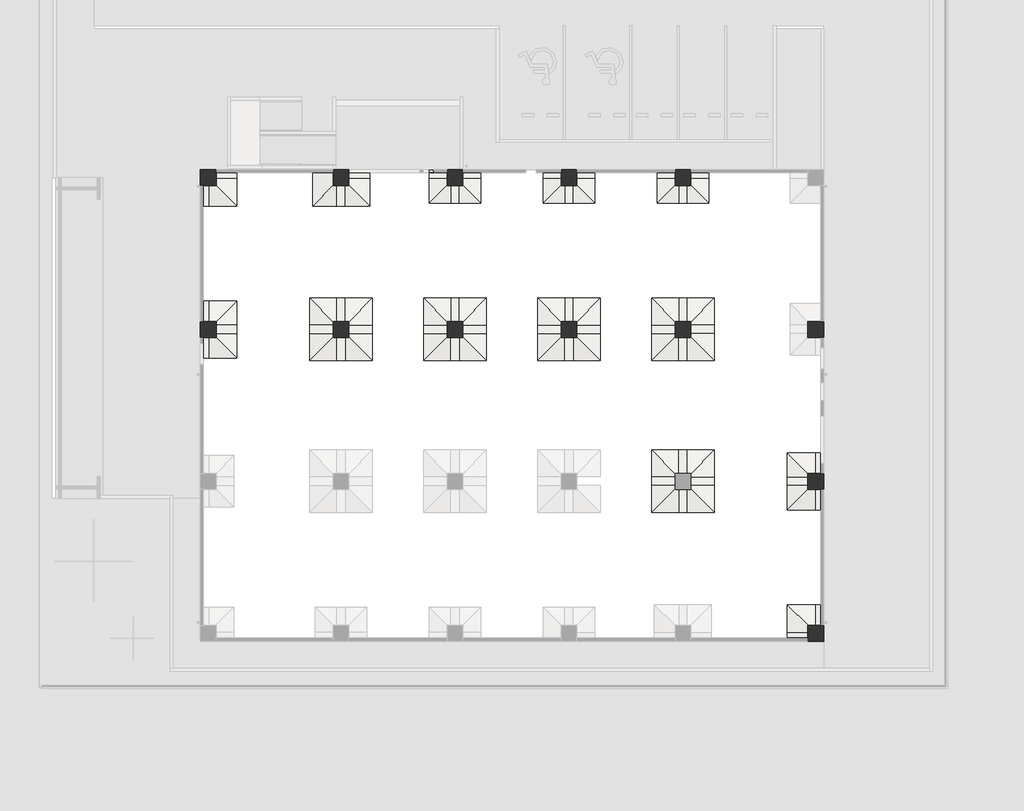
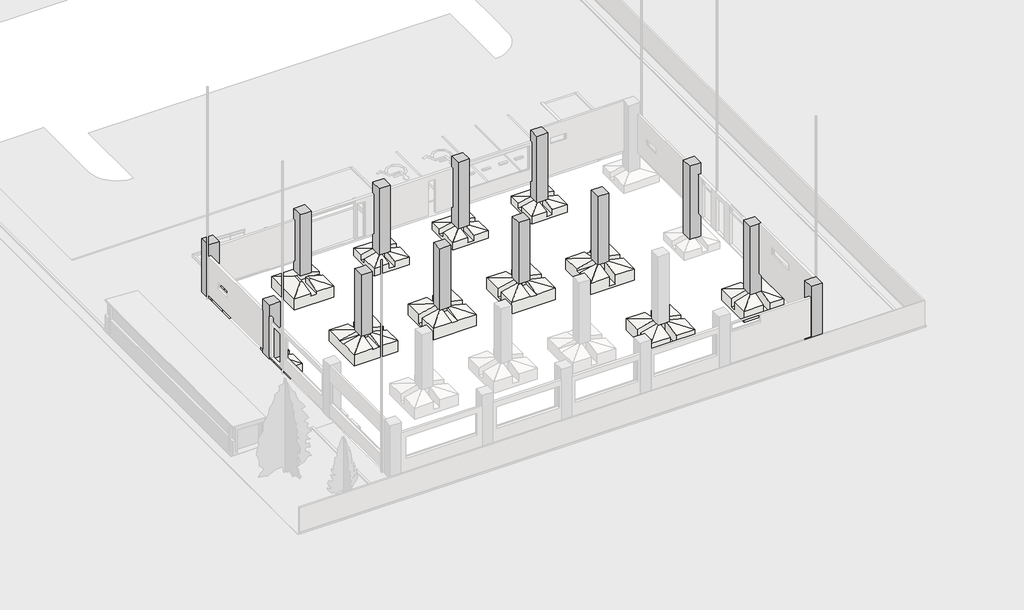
# One storey, part 3 of 4: 13 columns, 13 slabs.
"""IFC4 building model written with IfcOpenShell, lengths in millimetres."""

from ifc_helpers import new_model, si_unit, origin, place, context, project, spatial, faceted_brep, element, save

model = new_model("IFC4")

# Units and contexts
model_context = context("Model", 3, world=origin())
ifc_project = project(units=[si_unit("LENGTHUNIT", "METRE", prefix="MILLI")], contexts=[model_context])

# Site, building, storey
site = spatial("IfcSite", under=ifc_project)
building = spatial("IfcBuilding", under=site)
storey = spatial("IfcBuildingStorey", under=building, Name="設計GL=平均地盤面", Elevation=-300.0)

# Columns
placement = place(None, origin())
element("IfcColumn", 1, ObjectType="営_RC柱_角 : 800*800", at=placement, inside=storey, context=model_context, shape_type="Brep", body=[
    faceted_brep([(32420.0, 420.0, -1500.0), (32420.0, -420.0, -1500.0), (31580.0, -420.0, -1500.0), (31580.0, 420.0, -1500.0), (32420.0, 420.0, 4000.0), (32420.0, -420.0, 4000.0), (32420.0, 420.0, -10.0), (31580.0, -420.0, 4000.0), (31580.0, -420.0, 3150.0), (31580.0, -420.0, -10.0), (31580.0, 420.0, 4000.0), (31580.0, 420.0, 3940.0), (31580.0, 420.0, 0.0), (31580.0, 420.0, -10.0), (31580.0, 420.0, -160.0), (32250.0, 420.0, 4000.0)], [[[0, 1, 2, 3]], [[4, 5, 1, 0, 6]], [[5, 7, 8, 9, 2, 1]], [[7, 10, 11, 12, 13, 14, 3, 2, 9, 8]], [[10, 15, 4, 6, 0, 3, 14, 13, 12, 11]], [[4, 15, 10, 7, 5]]]),
])
element("IfcColumn", 2, ObjectType="営_RC柱_角 : 800*800", at=placement, inside=storey, context=model_context, shape_type="Brep", body=[
    faceted_brep([(32420.0, 8420.0, -1500.0), (32420.0, 7580.0, -1500.0), (31580.0, 7580.0, -1500.0), (31580.0, 8420.0, -1500.0), (32420.0, 8420.0, 4000.0), (32420.0, 7580.0, 4000.0), (32420.0, 7580.0, -10.0), (32420.0, 8420.0, -10.0), (32420.0, 8420.0, 3100.0), (32250.0, 7580.0, 4000.0), (31580.0, 7580.0, 4000.0), (31580.0, 7580.0, 3940.0), (31580.0, 7580.0, 0.0), (31580.0, 7580.0, -10.0), (31580.0, 7580.0, -160.0), (31580.0, 8420.0, 4000.0), (31580.0, 8420.0, 3940.0), (31580.0, 8420.0, 0.0), (31580.0, 8420.0, -10.0), (31580.0, 8420.0, -160.0), (32325.0, 8420.0, 4000.0)], [[[0, 1, 2, 3]], [[4, 5, 6, 1, 0, 7, 8]], [[5, 9, 10, 11, 12, 13, 14, 2, 1, 6]], [[10, 15, 16, 17, 18, 19, 3, 2, 14, 13, 12, 11]], [[15, 20, 4, 8, 7, 0, 3, 19, 18, 17, 16]], [[4, 20, 15, 10, 9, 5]]]),
])
element("IfcColumn", 3, ObjectType="営_RC柱_角 : 800*800", at=placement, inside=storey, context=model_context, shape_type="Brep", body=[
    faceted_brep([(7420.0, 16420.0, -950.0), (7420.0, 15580.0, -950.0), (6580.0, 15580.0, -950.0), (6580.0, 16420.0, -950.0), (7420.0, 16420.0, 4000.0), (7420.0, 15640.0, 4000.0), (7420.0, 15580.0, 4000.0), (7420.0, 15580.0, 3940.0), (7420.0, 15580.0, 0.0), (7420.0, 15580.0, -10.0), (7420.0, 15580.0, -160.0), (7420.0, 16420.0, -160.0), (7420.0, 16420.0, -10.0), (7420.0, 16420.0, 0.0), (7420.0, 16420.0, 3850.0), (6580.0, 15580.0, 4000.0), (6580.0, 15580.0, 3940.0), (6580.0, 15580.0, 0.0), (6580.0, 15580.0, -10.0), (6580.0, 15580.0, -160.0), (6580.0, 16420.0, 4000.0), (6580.0, 16420.0, 3940.0), (6580.0, 16420.0, 0.0), (6580.0, 16420.0, -10.0), (6580.0, 16420.0, -160.0), (7000.0, 16420.0, 4000.0)], [[[0, 1, 2, 3]], [[4, 5, 6, 7, 8, 9, 10, 1, 0, 11, 12, 13, 14]], [[6, 15, 16, 17, 18, 19, 2, 1, 10, 9, 8, 7]], [[15, 20, 21, 22, 23, 24, 3, 2, 19, 18, 17, 16]], [[20, 25, 4, 14, 13, 12, 11, 0, 3, 24, 23, 22, 21]], [[4, 25, 20, 15, 6, 5]]]),
])
element("IfcColumn", 4, ObjectType="営_RC柱_角 : 800*800", at=placement, inside=storey, context=model_context, shape_type="Brep", body=[
    faceted_brep([(13420.0, 16420.0, -950.0), (13420.0, 15580.0, -950.0), (12580.0, 15580.0, -950.0), (12580.0, 16420.0, -950.0), (13420.0, 16420.0, 4000.0), (13420.0, 15580.0, 4000.0), (13420.0, 15580.0, 3940.0), (13420.0, 15580.0, 3850.0), (13420.0, 15580.0, 0.0), (13420.0, 15580.0, -10.0), (13420.0, 15580.0, -160.0), (13420.0, 16420.0, -160.0), (13420.0, 16420.0, -10.0), (13420.0, 16420.0, 0.0), (13420.0, 16420.0, 3940.0), (12580.0, 15580.0, 4000.0), (12580.0, 15580.0, 3940.0), (12580.0, 15580.0, 0.0), (12580.0, 15580.0, -10.0), (12580.0, 15580.0, -160.0), (12580.0, 16420.0, 4000.0), (12580.0, 16420.0, 3940.0), (12580.0, 16420.0, 3850.0), (12580.0, 16420.0, 0.0), (12580.0, 16420.0, -10.0), (12580.0, 16420.0, -160.0)], [[[0, 1, 2, 3]], [[4, 5, 6, 7, 8, 9, 10, 1, 0, 11, 12, 13, 14]], [[5, 15, 16, 17, 18, 19, 2, 1, 10, 9, 8, 7, 6]], [[15, 20, 21, 22, 23, 24, 25, 3, 2, 19, 18, 17, 16]], [[20, 4, 14, 13, 12, 11, 0, 3, 25, 24, 23, 22, 21]], [[4, 20, 15, 5]]]),
])
element("IfcColumn", 5, ObjectType="営_RC柱_角 : 800*800", at=placement, inside=storey, context=model_context, shape_type="Brep", body=[
    faceted_brep([(19420.0, 16420.0, -950.0), (19420.0, 15580.0, -950.0), (18580.0, 15580.0, -950.0), (18580.0, 16420.0, -950.0), (19420.0, 16420.0, 4000.0), (19420.0, 15580.0, 4000.0), (19420.0, 15580.0, 3940.0), (19420.0, 15580.0, 0.0), (19420.0, 15580.0, -10.0), (19420.0, 15580.0, -160.0), (19420.0, 16420.0, -250.0), (19420.0, 16420.0, -100.0), (19420.0, 16420.0, -10.0), (19420.0, 16420.0, 0.0), (19420.0, 16420.0, 3940.0), (18580.0, 15580.0, 4000.0), (18580.0, 15580.0, 3940.0), (18580.0, 15580.0, 0.0), (18580.0, 15580.0, -10.0), (18580.0, 15580.0, -160.0), (18580.0, 16420.0, 4000.0), (18580.0, 16420.0, 3940.0), (18580.0, 16420.0, 0.0), (18580.0, 16420.0, -10.0), (18580.0, 16420.0, -160.0)], [[[0, 1, 2, 3]], [[4, 5, 6, 7, 8, 9, 1, 0, 10, 11, 12, 13, 14]], [[5, 15, 16, 17, 18, 19, 2, 1, 9, 8, 7, 6]], [[15, 20, 21, 22, 23, 24, 3, 2, 19, 18, 17, 16]], [[20, 4, 14, 13, 12, 11, 10, 0, 3, 24, 23, 22, 21]], [[4, 20, 15, 5]]]),
])
element("IfcColumn", 6, ObjectType="営_RC柱_角 : 800*800", at=placement, inside=storey, context=model_context, shape_type="Brep", body=[
    faceted_brep([(25420.0, 16420.0, -1500.0), (25420.0, 15580.0, -1500.0), (24580.0, 15580.0, -1500.0), (24580.0, 16420.0, -1500.0), (25420.0, 16420.0, 4000.0), (25420.0, 15580.0, 4000.0), (25420.0, 15580.0, 3940.0), (25420.0, 15580.0, 0.0), (25420.0, 15580.0, -10.0), (25420.0, 15580.0, -160.0), (25420.0, 16420.0, -160.0), (25420.0, 16420.0, -10.0), (25420.0, 16420.0, 0.0), (25420.0, 16420.0, 3940.0), (24580.0, 15580.0, 4000.0), (24580.0, 15580.0, 3940.0), (24580.0, 15580.0, 0.0), (24580.0, 15580.0, -10.0), (24580.0, 15580.0, -160.0), (24580.0, 16420.0, 4000.0), (24580.0, 16420.0, 3940.0), (24580.0, 16420.0, 0.0), (24580.0, 16420.0, -10.0), (24580.0, 16420.0, -100.0), (24580.0, 16420.0, -250.0)], [[[0, 1, 2, 3]], [[4, 5, 6, 7, 8, 9, 1, 0, 10, 11, 12, 13]], [[5, 14, 15, 16, 17, 18, 2, 1, 9, 8, 7, 6]], [[14, 19, 20, 21, 22, 23, 24, 3, 2, 18, 17, 16, 15]], [[19, 4, 13, 12, 11, 10, 0, 3, 24, 23, 22, 21, 20]], [[4, 19, 14, 5]]]),
])
element("IfcColumn", 7, ObjectType="営_RC柱_角 : 800*800", at=placement, inside=storey, context=model_context, shape_type="Brep", body=[
    faceted_brep([(32420.0, 16420.0, -1900.0), (32420.0, 15580.0, -1900.0), (31580.0, 15580.0, -1900.0), (31580.0, 16420.0, -1900.0), (32420.0, 16420.0, 4000.0), (32420.0, 15580.0, 4000.0), (32420.0, 15580.0, 3100.0), (32420.0, 15580.0, -10.0), (32420.0, 16420.0, -10.0), (32420.0, 16420.0, 3100.0), (32325.0, 15580.0, 4000.0), (31580.0, 15580.0, 4000.0), (31580.0, 15580.0, 3940.0), (31580.0, 15580.0, 3850.0), (31580.0, 15580.0, 0.0), (31580.0, 15580.0, -10.0), (31580.0, 15580.0, -160.0), (31580.0, 16420.0, 4000.0), (31580.0, 16420.0, 3940.0), (31580.0, 16420.0, 0.0), (31580.0, 16420.0, -10.0), (31580.0, 16420.0, -160.0), (32325.0, 16420.0, 4000.0)], [[[0, 1, 2, 3]], [[4, 5, 6, 7, 1, 0, 8, 9]], [[5, 10, 11, 12, 13, 14, 15, 16, 2, 1, 7, 6]], [[11, 17, 18, 19, 20, 21, 3, 2, 16, 15, 14, 13, 12]], [[17, 22, 4, 9, 8, 0, 3, 21, 20, 19, 18]], [[4, 22, 17, 11, 10, 5]]]),
])
element("IfcColumn", 8, ObjectType="営_RC柱_角 : 800*800", at=placement, inside=storey, context=model_context, shape_type="Brep", body=[
    faceted_brep([(420.0, 16420.0, -400.0), (420.0, 15580.0, -400.0), (-420.0, 15580.0, -400.0), (-420.0, 16420.0, -400.0), (420.0, 16420.0, 4000.0), (420.0, 15580.0, 4000.0), (420.0, 15580.0, 3940.0), (420.0, 15580.0, 0.0), (420.0, 15580.0, -10.0), (420.0, 15580.0, -160.0), (420.0, 16420.0, -160.0), (420.0, 16420.0, -10.0), (420.0, 16420.0, 0.0), (420.0, 16420.0, 3940.0), (-325.0, 15580.0, 4000.0), (-420.0, 15580.0, 4000.0), (-420.0, 15580.0, 3100.0), (-420.0, 15580.0, -100.0), (-420.0, 16420.0, 4000.0), (-420.0, 16420.0, 3100.0), (-420.0, 16420.0, -10.0), (-325.0, 16420.0, 4000.0)], [[[0, 1, 2, 3]], [[4, 5, 6, 7, 8, 9, 1, 0, 10, 11, 12, 13]], [[5, 14, 15, 16, 17, 2, 1, 9, 8, 7, 6]], [[15, 18, 19, 20, 3, 2, 17, 16]], [[18, 21, 4, 13, 12, 11, 10, 0, 3, 20, 19]], [[4, 21, 18, 15, 14, 5]]]),
])
element("IfcColumn", 9, ObjectType="営_RC柱_角 : 800*800", at=placement, inside=storey, context=model_context, shape_type="Brep", body=[
    faceted_brep([(7420.0, 24420.0, -950.0), (7420.0, 23580.0, -950.0), (6580.0, 23580.0, -950.0), (6580.0, 24420.0, -950.0), (7420.0, 24420.0, 4000.0), (7420.0, 24335.0, 4000.0), (7420.0, 24250.0, 4000.0), (7420.0, 23580.0, 4000.0), (7420.0, 23580.0, 3850.0), (7420.0, 23580.0, 0.0), (7420.0, 23580.0, -10.0), (7420.0, 23580.0, -160.0), (7420.0, 24420.0, -10.0), (7420.0, 24420.0, 0.0), (7420.0, 24420.0, 3050.0), (7420.0, 24420.0, 3150.0), (7000.0, 23580.0, 4000.0), (6580.0, 23580.0, 4000.0), (6580.0, 23580.0, 0.0), (6580.0, 23580.0, -10.0), (6580.0, 24050.0, 4000.0), (6580.0, 24420.0, 4000.0), (6580.0, 24420.0, 3150.0), (6580.0, 24420.0, -300.0)], [[[0, 1, 2, 3]], [[4, 5, 6, 7, 8, 9, 10, 11, 1, 0, 12, 13, 14, 15]], [[7, 16, 17, 18, 19, 2, 1, 11, 10, 9, 8]], [[17, 20, 21, 22, 23, 3, 2, 19, 18]], [[21, 4, 15, 14, 13, 12, 0, 3, 23, 22]], [[4, 21, 20, 17, 16, 7, 6, 5]]]),
])
element("IfcColumn", 10, ObjectType="営_RC柱_角 : 800*800", at=placement, inside=storey, context=model_context, shape_type="Brep", body=[
    faceted_brep([(13420.0, 24420.0, -1350.0), (13420.0, 23580.0, -1350.0), (12580.0, 23580.0, -1350.0), (12580.0, 24420.0, -1350.0), (13420.0, 24420.0, 4000.0), (13420.0, 24335.0, 4000.0), (13420.0, 23580.0, 4000.0), (13420.0, 23580.0, 3940.0), (13420.0, 23580.0, 0.0), (13420.0, 23580.0, -10.0), (13420.0, 23580.0, -160.0), (13420.0, 24420.0, -10.0), (13420.0, 24420.0, 3150.0), (12580.0, 23580.0, 4000.0), (12580.0, 23580.0, 3940.0), (12580.0, 23580.0, 0.0), (12580.0, 23580.0, -10.0), (12580.0, 23580.0, -160.0), (12580.0, 24335.0, 4000.0), (12580.0, 24420.0, 4000.0), (12580.0, 24420.0, 3150.0), (12580.0, 24420.0, -10.0)], [[[0, 1, 2, 3]], [[4, 5, 6, 7, 8, 9, 10, 1, 0, 11, 12]], [[6, 13, 14, 15, 16, 17, 2, 1, 10, 9, 8, 7]], [[13, 18, 19, 20, 21, 3, 2, 17, 16, 15, 14]], [[19, 4, 12, 11, 0, 3, 21, 20]], [[4, 19, 18, 13, 6, 5]]]),
])
element("IfcColumn", 11, ObjectType="営_RC柱_角 : 800*800", at=placement, inside=storey, context=model_context, shape_type="Brep", body=[
    faceted_brep([(19420.0, 24420.0, -1350.0), (19420.0, 23580.0, -1350.0), (18580.0, 23580.0, -1350.0), (18580.0, 24420.0, -1350.0), (19420.0, 24420.0, 4000.0), (19420.0, 24335.0, 4000.0), (19420.0, 23580.0, 4000.0), (19420.0, 23580.0, 3940.0), (19420.0, 23580.0, 0.0), (19420.0, 23580.0, -10.0), (19420.0, 23580.0, -100.0), (19420.0, 23580.0, -250.0), (19420.0, 24420.0, -10.0), (19420.0, 24420.0, 3150.0), (18580.0, 23580.0, 4000.0), (18580.0, 23580.0, 3940.0), (18580.0, 23580.0, 0.0), (18580.0, 23580.0, -10.0), (18580.0, 23580.0, -160.0), (18580.0, 24335.0, 4000.0), (18580.0, 24420.0, 4000.0), (18580.0, 24420.0, 3150.0), (18580.0, 24420.0, -10.0)], [[[0, 1, 2, 3]], [[4, 5, 6, 7, 8, 9, 10, 11, 1, 0, 12, 13]], [[6, 14, 15, 16, 17, 18, 2, 1, 11, 10, 9, 8, 7]], [[14, 19, 20, 21, 22, 3, 2, 18, 17, 16, 15]], [[20, 4, 13, 12, 0, 3, 22, 21]], [[4, 20, 19, 14, 6, 5]]]),
])
element("IfcColumn", 12, ObjectType="営_RC柱_角 : 800*800", at=placement, inside=storey, context=model_context, shape_type="Brep", body=[
    faceted_brep([(25420.0, 24420.0, -1350.0), (25420.0, 23580.0, -1350.0), (24580.0, 23580.0, -1350.0), (24580.0, 24420.0, -1350.0), (25420.0, 24420.0, 4000.0), (25420.0, 24250.0, 4000.0), (25420.0, 23580.0, 4000.0), (25420.0, 23580.0, 3940.0), (25420.0, 23580.0, 0.0), (25420.0, 23580.0, -10.0), (25420.0, 23580.0, -160.0), (25420.0, 24420.0, -10.0), (24580.0, 23580.0, 4000.0), (24580.0, 23580.0, 3940.0), (24580.0, 23580.0, 0.0), (24580.0, 23580.0, -10.0), (24580.0, 23580.0, -100.0), (24580.0, 23580.0, -250.0), (24580.0, 24335.0, 4000.0), (24580.0, 24420.0, 4000.0), (24580.0, 24420.0, 3150.0), (24580.0, 24420.0, -10.0)], [[[0, 1, 2, 3]], [[4, 5, 6, 7, 8, 9, 10, 1, 0, 11]], [[6, 12, 13, 14, 15, 16, 17, 2, 1, 10, 9, 8, 7]], [[12, 18, 19, 20, 21, 3, 2, 17, 16, 15, 14, 13]], [[19, 4, 11, 0, 3, 21, 20]], [[4, 19, 18, 12, 6, 5]]]),
])
element("IfcColumn", 13, ObjectType="営_RC柱_角 : 800*800", at=placement, inside=storey, context=model_context, shape_type="Brep", body=[
    faceted_brep([(420.0, 24420.0, -400.0), (420.0, 23580.0, -400.0), (-420.0, 23580.0, -400.0), (-420.0, 24420.0, -400.0), (420.0, 24420.0, 4000.0), (420.0, 24050.0, 4000.0), (420.0, 23580.0, 4000.0), (420.0, 23580.0, 0.0), (420.0, 23580.0, -10.0), (420.0, 23580.0, -160.0), (420.0, 24420.0, -10.0), (420.0, 24420.0, 3150.0), (-325.0, 23580.0, 4000.0), (-420.0, 23580.0, 4000.0), (-420.0, 23580.0, 3100.0), (-420.0, 23580.0, -10.0), (-420.0, 24420.0, 4000.0)], [[[0, 1, 2, 3]], [[4, 5, 6, 7, 8, 9, 1, 0, 10, 11]], [[6, 12, 13, 14, 15, 2, 1, 9, 8, 7]], [[13, 16, 3, 2, 15, 14]], [[16, 4, 11, 10, 0, 3]], [[4, 16, 13, 12, 6, 5]]]),
])

# Slabs
element("IfcSlab", 14, ObjectType="独立基礎 - 四角形 - ハンチ : F2 3000*3000", at=placement, inside=storey, context=model_context, shape_type="Brep", body=[
    faceted_brep([(1500.0, 22500.0, -1600.0), (-1500.0, 22500.0, -1600.0), (-1500.0, 25500.0, -1600.0), (1500.0, 25500.0, -1600.0), (1500.0, 25500.0, -700.0), (1500.0, 24420.0, -700.0), (1500.0, 24420.0, -1300.0), (1500.0, 23930.0, -1300.0), (1500.0, 23930.0, -700.0), (1500.0, 22500.0, -700.0), (-1500.0, 25500.0, -700.0), (-1500.0, 22500.0, -700.0), (70.0, 22500.0, -700.0), (70.0, 22500.0, -1300.0), (-420.0, 22500.0, -1300.0), (-420.0, 22500.0, -700.0), (70.0, 23600.0, -400.0), (400.0, 23600.0, -400.0), (400.0, 23930.0, -400.0), (70.0, 23930.0, -400.0), (-420.0, 24420.0, -405.4545455), (420.0, 24420.0, -405.4545455), (-420.0, 23580.0, -405.4545455), (-420.0, 23930.0, -405.4545455), (70.0, 23930.0, -1300.0), (70.0, 24420.0, -1300.0), (-420.0, 24420.0, -1300.0)], [[[0, 1, 2, 3]], [[0, 3, 4, 5, 6, 7, 8, 9]], [[3, 2, 10, 4]], [[2, 1, 11, 10]], [[1, 0, 9, 12, 13, 14, 15, 11]], [[16, 17, 18, 19]], [[4, 10, 20, 21]], [[10, 11, 22, 23, 20]], [[11, 15, 22]], [[17, 9, 8, 18]], [[13, 12, 16, 19, 24]], [[14, 13, 24, 7, 6, 25, 26]], [[14, 26, 20, 23, 22, 15]], [[26, 25, 6, 5, 21, 20]], [[9, 17, 16, 12]], [[7, 24, 19, 18, 8]], [[5, 4, 21]]]),
])
element("IfcSlab", 15, ObjectType="独立基礎 - 四角形 - ハンチ : F2 3000*3000", at=placement, inside=storey, context=model_context, shape_type="Brep", body=[
    faceted_brep([(8500.0, 22500.0, -2650.0), (5500.0, 22500.0, -2650.0), (5500.0, 25500.0, -2650.0), (8500.0, 25500.0, -2650.0), (8500.0, 25500.0, -1750.0), (8500.0, 24420.0, -1750.0), (8500.0, 24420.0, -1950.0), (8500.0, 23950.0, -1950.0), (8500.0, 23950.0, -1750.0), (8500.0, 22500.0, -1750.0), (5500.0, 25500.0, -1750.0), (5500.0, 22500.0, -1750.0), (7225.0, 22500.0, -1750.0), (7225.0, 22500.0, -1950.0), (6755.0, 22500.0, -1950.0), (6755.0, 22500.0, -1750.0), (7400.0, 23600.0, -1450.0), (7400.0, 23950.0, -1450.0), (7225.0, 23950.0, -1450.0), (7225.0, 23600.0, -1450.0), (6600.0, 24400.0, -1450.0), (6755.0, 24400.0, -1450.0), (6755.0, 24420.0, -1455.4545455), (7225.0, 24420.0, -1455.4545455), (7420.0, 24420.0, -1455.4545455), (6600.0, 23600.0, -1450.0), (6755.0, 23600.0, -1450.0), (7225.0, 23950.0, -1950.0), (6755.0, 24420.0, -1950.0), (6755.0, 23950.0, -1950.0)], [[[0, 1, 2, 3]], [[0, 3, 4, 5, 6, 7, 8, 9]], [[3, 2, 10, 4]], [[2, 1, 11, 10]], [[1, 0, 9, 12, 13, 14, 15, 11]], [[16, 17, 18, 19]], [[4, 10, 20, 21, 22, 23, 24]], [[10, 11, 25, 20]], [[25, 11, 15, 26]], [[16, 9, 8, 17]], [[8, 7, 27, 18, 17]], [[14, 13, 27, 7, 6, 28, 29]], [[22, 28, 6, 5, 24, 23]], [[14, 29, 28, 22, 21, 26, 15]], [[5, 4, 24]], [[27, 13, 12, 19, 18]], [[20, 25, 26, 21]], [[9, 16, 19, 12]]]),
])
element("IfcSlab", 16, ObjectType="独立基礎 - 四角形 - ハンチ : F3 2700*2700", at=placement, inside=storey, context=model_context, shape_type="Brep", body=[
    faceted_brep([(14350.0, 22650.0, -2150.0), (11650.0, 22650.0, -2150.0), (11650.0, 25350.0, -2150.0), (14350.0, 25350.0, -2150.0), (14350.0, 25350.0, -1550.0), (14350.0, 24420.0, -1550.0), (14350.0, 24420.0, -1950.0), (14350.0, 23950.0, -1950.0), (14350.0, 23950.0, -1550.0), (14350.0, 22650.0, -1550.0), (11650.0, 25350.0, -1550.0), (11650.0, 22650.0, -1550.0), (11650.0, 23950.0, -1550.0), (11650.0, 23950.0, -1950.0), (11650.0, 24420.0, -1950.0), (11650.0, 24420.0, -1550.0), (13225.0, 22650.0, -1550.0), (13225.0, 22650.0, -1950.0), (12775.0, 22650.0, -1950.0), (12775.0, 22650.0, -1550.0), (13400.0, 23600.0, -1350.0), (13400.0, 23950.0, -1350.0), (13225.0, 23950.0, -1350.0), (13225.0, 23600.0, -1350.0), (12580.0, 24420.0, -1354.2105263), (12775.0, 24420.0, -1354.2105263), (13225.0, 24420.0, -1354.2105263), (13420.0, 24420.0, -1354.2105263), (12600.0, 23600.0, -1350.0), (12775.0, 23600.0, -1350.0), (13225.0, 23950.0, -1950.0), (12775.0, 23950.0, -1950.0), (13225.0, 24420.0, -1950.0), (12600.0, 23950.0, -1350.0), (12775.0, 23950.0, -1350.0)], [[[0, 1, 2, 3]], [[0, 3, 4, 5, 6, 7, 8, 9]], [[3, 2, 10, 4]], [[2, 1, 11, 12, 13, 14, 15, 10]], [[1, 0, 9, 16, 17, 18, 19, 11]], [[20, 21, 22, 23]], [[4, 10, 24, 25, 26, 27]], [[10, 15, 24]], [[28, 11, 19, 29]], [[20, 9, 8, 21]], [[8, 7, 30, 22, 21]], [[14, 13, 31, 18, 17, 30, 7, 6, 32]], [[15, 14, 32, 6, 5, 27, 26, 25, 24]], [[11, 28, 33, 12]], [[5, 4, 27]], [[30, 17, 16, 23, 22]], [[18, 31, 34, 29, 19]], [[33, 28, 29, 34]], [[9, 20, 23, 16]], [[13, 12, 33, 34, 31]]]),
])
element("IfcSlab", 17, ObjectType="独立基礎 - 四角形 - ハンチ : F3 2700*2700", at=placement, inside=storey, context=model_context, shape_type="Brep", body=[
    faceted_brep([(20350.0, 22650.0, -2150.0), (17650.0, 22650.0, -2150.0), (17650.0, 25350.0, -2150.0), (20350.0, 25350.0, -2150.0), (20350.0, 25350.0, -1550.0), (20350.0, 24420.0, -1550.0), (20350.0, 24420.0, -1950.0), (20350.0, 23950.0, -1950.0), (20350.0, 23950.0, -1550.0), (20350.0, 22650.0, -1550.0), (17650.0, 25350.0, -1550.0), (17650.0, 22650.0, -1550.0), (17650.0, 23950.0, -1550.0), (17650.0, 23950.0, -1950.0), (17650.0, 24420.0, -1950.0), (17650.0, 24420.0, -1550.0), (19225.0, 22650.0, -1550.0), (19225.0, 22650.0, -1950.0), (18775.0, 22650.0, -1950.0), (18775.0, 22650.0, -1550.0), (19400.0, 23600.0, -1350.0), (19400.0, 23950.0, -1350.0), (19225.0, 23950.0, -1350.0), (19225.0, 23600.0, -1350.0), (18580.0, 24420.0, -1354.2105263), (18775.0, 24420.0, -1354.2105263), (19225.0, 24420.0, -1354.2105263), (19420.0, 24420.0, -1354.2105263), (18600.0, 23600.0, -1350.0), (18775.0, 23600.0, -1350.0), (19225.0, 23950.0, -1950.0), (18775.0, 23950.0, -1950.0), (19225.0, 24420.0, -1950.0), (18600.0, 23950.0, -1350.0), (18775.0, 23950.0, -1350.0)], [[[0, 1, 2, 3]], [[0, 3, 4, 5, 6, 7, 8, 9]], [[3, 2, 10, 4]], [[2, 1, 11, 12, 13, 14, 15, 10]], [[1, 0, 9, 16, 17, 18, 19, 11]], [[20, 21, 22, 23]], [[4, 10, 24, 25, 26, 27]], [[10, 15, 24]], [[28, 11, 19, 29]], [[20, 9, 8, 21]], [[8, 7, 30, 22, 21]], [[14, 13, 31, 18, 17, 30, 7, 6, 32]], [[15, 14, 32, 6, 5, 27, 26, 25, 24]], [[11, 28, 33, 12]], [[5, 4, 27]], [[30, 17, 16, 23, 22]], [[18, 31, 34, 29, 19]], [[33, 28, 29, 34]], [[9, 20, 23, 16]], [[13, 12, 33, 34, 31]]]),
])
element("IfcSlab", 18, ObjectType="独立基礎 - 四角形 - ハンチ : F3 2700*2700", at=placement, inside=storey, context=model_context, shape_type="Brep", body=[
    faceted_brep([(26350.0, 22650.0, -2150.0), (23650.0, 22650.0, -2150.0), (23650.0, 25350.0, -2150.0), (26350.0, 25350.0, -2150.0), (26350.0, 25350.0, -1550.0), (26350.0, 24420.0, -1550.0), (26350.0, 24420.0, -1950.0), (26350.0, 23930.0, -1950.0), (26350.0, 23930.0, -1550.0), (26350.0, 22650.0, -1550.0), (23650.0, 25350.0, -1550.0), (23650.0, 22650.0, -1550.0), (23650.0, 23950.0, -1550.0), (23650.0, 23950.0, -1950.0), (23650.0, 24420.0, -1950.0), (23650.0, 24420.0, -1550.0), (25225.0, 22650.0, -1550.0), (25225.0, 22650.0, -1950.0), (24775.0, 22650.0, -1950.0), (24775.0, 22650.0, -1550.0), (25225.0, 23600.0, -1350.0), (25400.0, 23600.0, -1350.0), (25400.0, 23930.0, -1350.0), (25225.0, 23930.0, -1350.0), (24580.0, 24420.0, -1354.2105263), (25420.0, 24420.0, -1354.2105263), (24600.0, 23600.0, -1350.0), (24775.0, 23600.0, -1350.0), (24600.0, 23950.0, -1350.0), (24775.0, 23950.0, -1350.0), (24775.0, 23950.0, -1950.0), (25225.0, 23930.0, -1950.0), (25225.0, 24420.0, -1950.0), (24775.0, 23930.0, -1350.0)], [[[0, 1, 2, 3]], [[0, 3, 4, 5, 6, 7, 8, 9]], [[3, 2, 10, 4]], [[2, 1, 11, 12, 13, 14, 15, 10]], [[1, 0, 9, 16, 17, 18, 19, 11]], [[20, 21, 22, 23]], [[4, 10, 24, 25]], [[10, 15, 24]], [[26, 11, 19, 27]], [[21, 9, 8, 22]], [[13, 12, 28, 29, 30]], [[14, 13, 30, 18, 17, 31, 7, 6, 32]], [[15, 14, 32, 6, 5, 25, 24]], [[17, 16, 20, 23, 31]], [[11, 26, 28, 12]], [[19, 18, 30, 29, 33, 27]], [[28, 26, 27, 33, 29]], [[9, 21, 20, 16]], [[7, 31, 23, 22, 8]], [[5, 4, 25]]]),
])
element("IfcSlab", 19, ObjectType="独立基礎 - 四角形 - ハンチ : F2 3000*3000", at=placement, inside=storey, context=model_context, shape_type="Brep", body=[
    faceted_brep([(1500.0, 14500.0, -1600.0), (-1500.0, 14500.0, -1600.0), (-1500.0, 17500.0, -1600.0), (1500.0, 17500.0, -1600.0), (1500.0, 17500.0, -700.0), (1500.0, 16245.0, -700.0), (1500.0, 16245.0, -1300.0), (1500.0, 15755.0, -1300.0), (1500.0, 15755.0, -700.0), (1500.0, 14500.0, -700.0), (-1500.0, 17500.0, -700.0), (-420.0, 17500.0, -700.0), (-420.0, 17500.0, -1300.0), (70.0, 17500.0, -1300.0), (70.0, 17500.0, -700.0), (-1500.0, 14500.0, -700.0), (70.0, 14500.0, -700.0), (70.0, 14500.0, -1300.0), (-420.0, 14500.0, -1300.0), (-420.0, 14500.0, -700.0), (400.0, 16400.0, -400.0), (70.0, 16400.0, -400.0), (70.0, 16245.0, -400.0), (400.0, 16245.0, -400.0), (-420.0, 15580.0, -405.4545455), (-420.0, 15755.0, -405.4545455), (-420.0, 16245.0, -405.4545455), (-420.0, 16420.0, -405.4545455), (400.0, 15600.0, -400.0), (400.0, 15755.0, -400.0), (70.0, 16245.0, -1300.0), (-420.0, 15755.0, -1300.0), (70.0, 15755.0, -1300.0), (70.0, 15600.0, -400.0), (70.0, 15755.0, -400.0)], [[[0, 1, 2, 3]], [[0, 3, 4, 5, 6, 7, 8, 9]], [[3, 2, 10, 11, 12, 13, 14, 4]], [[2, 1, 15, 10]], [[1, 0, 9, 16, 17, 18, 19, 15]], [[20, 21, 22, 23]], [[20, 4, 14, 21]], [[10, 15, 24, 25, 26, 27]], [[15, 19, 24]], [[28, 9, 8, 29]], [[14, 13, 30, 22, 21]], [[13, 12, 31, 18, 17, 32, 7, 6, 30]], [[18, 31, 12, 11, 27, 26, 25, 24, 19]], [[11, 10, 27]], [[9, 28, 33, 16]], [[7, 32, 34, 29, 8]], [[30, 6, 5, 23, 22]], [[33, 28, 29, 34]], [[4, 20, 23, 5]], [[17, 16, 33, 34, 32]]]),
])
element("IfcSlab", 20, ObjectType="独立基礎 - 四角形 - ハンチ : F1 3300*3300", at=placement, inside=storey, context=model_context, shape_type="Brep", body=[
    faceted_brep([(8650.0, 14350.0, -2150.0), (5350.0, 14350.0, -2150.0), (5350.0, 17650.0, -2150.0), (8650.0, 17650.0, -2150.0), (8650.0, 17650.0, -1250.0), (8650.0, 16225.0, -1250.0), (8650.0, 16225.0, -1950.0), (8650.0, 15755.0, -1950.0), (8650.0, 15755.0, -1250.0), (8650.0, 14350.0, -1250.0), (5350.0, 17650.0, -1250.0), (6755.0, 17650.0, -1250.0), (6755.0, 17650.0, -1950.0), (7225.0, 17650.0, -1950.0), (7225.0, 17650.0, -1250.0), (5350.0, 14350.0, -1250.0), (5350.0, 15755.0, -1250.0), (5350.0, 15755.0, -1300.0), (5350.0, 16245.0, -1300.0), (5350.0, 16245.0, -1250.0), (7245.0, 14350.0, -1250.0), (7245.0, 14350.0, -1300.0), (6755.0, 14350.0, -1300.0), (6755.0, 14350.0, -1250.0), (7225.0, 16400.0, -950.0), (7225.0, 16245.0, -950.0), (7225.0, 16225.0, -950.0), (7245.0, 16225.0, -950.0), (7400.0, 16225.0, -950.0), (7400.0, 16400.0, -950.0), (6600.0, 16400.0, -950.0), (6600.0, 16245.0, -950.0), (6600.0, 15600.0, -950.0), (6755.0, 15600.0, -950.0), (7400.0, 15600.0, -950.0), (7400.0, 15755.0, -950.0), (7225.0, 15755.0, -1950.0), (6755.0, 15755.0, -1950.0), (6755.0, 15755.0, -1300.0), (7225.0, 15755.0, -1300.0), (7245.0, 15755.0, -1300.0), (7245.0, 15755.0, -950.0), (6755.0, 16245.0, -1300.0), (6755.0, 16245.0, -950.0), (7225.0, 16225.0, -1950.0), (7225.0, 16225.0, -1300.0), (6600.0, 15755.0, -950.0), (6755.0, 16225.0, -1950.0), (6755.0, 16400.0, -950.0), (7245.0, 15600.0, -950.0), (6755.0, 15755.0, -950.0)], [[[0, 1, 2, 3]], [[0, 3, 4, 5, 6, 7, 8, 9]], [[3, 2, 10, 11, 12, 13, 14, 4]], [[2, 1, 15, 16, 17, 18, 19, 10]], [[1, 0, 9, 20, 21, 22, 23, 15]], [[24, 25, 26, 27, 28, 29]], [[29, 4, 14, 24]], [[30, 10, 19, 31]], [[32, 15, 23, 33]], [[34, 9, 8, 35]], [[7, 36, 37, 38, 39, 40, 41, 35, 8]], [[18, 17, 38, 42]], [[19, 18, 42, 43, 31]], [[24, 14, 13, 44, 45, 26, 25]], [[15, 32, 46, 16]], [[7, 6, 44, 13, 12, 47, 37, 36]], [[6, 5, 28, 27, 26, 45, 44]], [[37, 47, 12, 11, 48, 43, 42, 38]], [[34, 35, 41, 49]], [[4, 29, 28, 5]], [[40, 21, 20, 49, 41]], [[21, 40, 39, 38, 22]], [[22, 38, 50, 33, 23]], [[9, 34, 49, 20]], [[17, 16, 46, 50, 38]], [[46, 32, 33, 50]], [[30, 31, 43, 48]], [[10, 30, 48, 11]]]),
])
element("IfcSlab", 21, ObjectType="独立基礎 - 四角形 - ハンチ : F1 3300*3300", at=placement, inside=storey, context=model_context, shape_type="Brep", body=[
    faceted_brep([(14650.0, 14350.0, -2150.0), (11350.0, 14350.0, -2150.0), (11350.0, 17650.0, -2150.0), (14650.0, 17650.0, -2150.0), (14650.0, 17650.0, -1250.0), (14650.0, 16225.0, -1250.0), (14650.0, 16225.0, -1950.0), (14650.0, 15755.0, -1950.0), (14650.0, 15755.0, -1250.0), (14650.0, 14350.0, -1250.0), (11350.0, 17650.0, -1250.0), (12775.0, 17650.0, -1250.0), (12775.0, 17650.0, -1950.0), (13225.0, 17650.0, -1950.0), (13225.0, 17650.0, -1250.0), (11350.0, 14350.0, -1250.0), (11350.0, 15755.0, -1250.0), (11350.0, 15755.0, -1950.0), (11350.0, 16225.0, -1950.0), (11350.0, 16225.0, -1250.0), (13245.0, 14350.0, -1250.0), (13245.0, 14350.0, -1300.0), (12755.0, 14350.0, -1300.0), (12755.0, 14350.0, -1250.0), (13400.0, 16225.0, -950.0), (13400.0, 16400.0, -950.0), (13225.0, 16400.0, -950.0), (13225.0, 16225.0, -950.0), (13245.0, 16225.0, -950.0), (12600.0, 16400.0, -950.0), (12600.0, 16225.0, -950.0), (12600.0, 15600.0, -950.0), (12755.0, 15600.0, -950.0), (13400.0, 15600.0, -950.0), (13400.0, 15755.0, -950.0), (13225.0, 15755.0, -1950.0), (12775.0, 15755.0, -1950.0), (12772.6070916, 15755.0, -1950.0), (12600.0, 15755.0, -950.0), (12755.0, 15755.0, -950.0), (12755.0, 15755.0, -1300.0), (12775.0, 15755.0, -1300.0), (13225.0, 15755.0, -1300.0), (13245.0, 15755.0, -1300.0), (13245.0, 15755.0, -950.0), (13225.0, 16225.0, -1950.0), (12775.0, 16225.0, -1950.0), (13225.0, 16225.0, -1300.0), (13245.0, 15600.0, -950.0), (12775.0, 16400.0, -950.0), (12775.0, 16225.0, -950.0), (12755.0, 16225.0, -950.0)], [[[0, 1, 2, 3]], [[0, 3, 4, 5, 6, 7, 8, 9]], [[3, 2, 10, 11, 12, 13, 14, 4]], [[2, 1, 15, 16, 17, 18, 19, 10]], [[1, 0, 9, 20, 21, 22, 23, 15]], [[24, 25, 26, 27, 28]], [[25, 4, 14, 26]], [[29, 10, 19, 30]], [[31, 15, 23, 32]], [[33, 9, 8, 34]], [[7, 35, 36, 37, 17, 16, 38, 39, 40, 41, 42, 43, 44, 34, 8]], [[18, 17, 37, 36, 35, 7, 6, 45, 13, 12, 46]], [[6, 5, 24, 28, 27, 47, 45]], [[15, 31, 38, 16]], [[33, 34, 44, 48]], [[4, 25, 24, 5]], [[43, 21, 20, 48, 44]], [[21, 43, 42, 41, 40, 22]], [[22, 40, 39, 32, 23]], [[9, 33, 48, 20]], [[38, 31, 32, 39]], [[13, 45, 47, 27, 26, 14]], [[46, 12, 11, 49, 50]], [[29, 30, 51, 50, 49]], [[10, 29, 49, 11]], [[19, 18, 46, 50, 51, 30]]]),
])
element("IfcSlab", 22, ObjectType="独立基礎 - 四角形 - ハンチ : F1 3300*3300", at=placement, inside=storey, context=model_context, shape_type="Brep", body=[
    faceted_brep([(20650.0, 14350.0, -2150.0), (17350.0, 14350.0, -2150.0), (17350.0, 17650.0, -2150.0), (20650.0, 17650.0, -2150.0), (20650.0, 17650.0, -1250.0), (20650.0, 16225.0, -1250.0), (20650.0, 16225.0, -1950.0), (20650.0, 15755.0, -1950.0), (20650.0, 15755.0, -1250.0), (20650.0, 14350.0, -1250.0), (17350.0, 17650.0, -1250.0), (18775.0, 17650.0, -1250.0), (18775.0, 17650.0, -1950.0), (19225.0, 17650.0, -1950.0), (19225.0, 17650.0, -1250.0), (17350.0, 14350.0, -1250.0), (17350.0, 15755.0, -1250.0), (17350.0, 15755.0, -1950.0), (17350.0, 16225.0, -1950.0), (17350.0, 16225.0, -1250.0), (19245.0, 14350.0, -1250.0), (19245.0, 14350.0, -1300.0), (18755.0, 14350.0, -1300.0), (18755.0, 14350.0, -1250.0), (19400.0, 16225.0, -950.0), (19400.0, 16400.0, -950.0), (19225.0, 16400.0, -950.0), (19225.0, 16225.0, -950.0), (19245.0, 16225.0, -950.0), (18600.0, 16400.0, -950.0), (18600.0, 16225.0, -950.0), (18600.0, 15600.0, -950.0), (18755.0, 15600.0, -950.0), (19400.0, 15600.0, -950.0), (19400.0, 15755.0, -950.0), (19225.0, 15755.0, -1950.0), (18775.0, 15755.0, -1950.0), (18772.6070916, 15755.0, -1950.0), (18600.0, 15755.0, -950.0), (18755.0, 15755.0, -950.0), (18755.0, 15755.0, -1300.0), (18775.0, 15755.0, -1300.0), (19225.0, 15755.0, -1300.0), (19245.0, 15755.0, -1300.0), (19245.0, 15755.0, -950.0), (19225.0, 16225.0, -1950.0), (18775.0, 16225.0, -1950.0), (19225.0, 16225.0, -1300.0), (19245.0, 15600.0, -950.0), (18775.0, 16400.0, -950.0), (18775.0, 16225.0, -950.0), (18755.0, 16225.0, -950.0)], [[[0, 1, 2, 3]], [[0, 3, 4, 5, 6, 7, 8, 9]], [[3, 2, 10, 11, 12, 13, 14, 4]], [[2, 1, 15, 16, 17, 18, 19, 10]], [[1, 0, 9, 20, 21, 22, 23, 15]], [[24, 25, 26, 27, 28]], [[25, 4, 14, 26]], [[29, 10, 19, 30]], [[31, 15, 23, 32]], [[33, 9, 8, 34]], [[7, 35, 36, 37, 17, 16, 38, 39, 40, 41, 42, 43, 44, 34, 8]], [[18, 17, 37, 36, 35, 7, 6, 45, 13, 12, 46]], [[6, 5, 24, 28, 27, 47, 45]], [[15, 31, 38, 16]], [[33, 34, 44, 48]], [[4, 25, 24, 5]], [[43, 21, 20, 48, 44]], [[21, 43, 42, 41, 40, 22]], [[22, 40, 39, 32, 23]], [[9, 33, 48, 20]], [[38, 31, 32, 39]], [[13, 45, 47, 27, 26, 14]], [[46, 12, 11, 49, 50]], [[29, 30, 51, 50, 49]], [[10, 29, 49, 11]], [[19, 18, 46, 50, 51, 30]]]),
])
element("IfcSlab", 23, ObjectType="独立基礎 - 四角形 - ハンチ : F1 3300*3300", at=placement, inside=storey, context=model_context, shape_type="Brep", body=[
    faceted_brep([(26650.0, 14350.0, -2700.0), (23350.0, 14350.0, -2700.0), (23350.0, 17650.0, -2700.0), (26650.0, 17650.0, -2700.0), (26650.0, 17650.0, -1950.0), (26650.0, 16245.0, -1950.0), (26650.0, 16245.0, -2500.0), (26650.0, 15775.0, -2500.0), (26650.0, 15775.0, -1800.0), (26650.0, 14350.0, -1800.0), (23350.0, 17650.0, -1950.0), (23350.0, 17650.0, -1800.0), (24775.0, 17650.0, -1800.0), (24775.0, 17650.0, -1950.0), (25225.0, 17650.0, -1950.0), (25225.0, 17650.0, -1800.0), (26640.0, 17650.0, -1800.0), (26640.0, 17650.0, -1950.0), (23350.0, 14350.0, -1800.0), (23350.0, 15755.0, -1800.0), (23350.0, 15755.0, -1950.0), (23350.0, 16225.0, -1950.0), (23350.0, 16225.0, -1800.0), (25225.0, 14350.0, -1800.0), (25225.0, 14350.0, -2500.0), (24755.0, 14350.0, -2500.0), (24755.0, 14350.0, -1800.0), (25400.0, 16245.0, -1500.0), (25400.0, 16400.0, -1500.0), (25225.0, 16400.0, -1500.0), (25225.0, 16245.0, -1500.0), (26640.0, 17640.0, -1797.6), (24600.0, 16400.0, -1500.0), (24600.0, 16225.0, -1500.0), (24600.0, 15600.0, -1500.0), (24755.0, 15600.0, -1500.0), (25400.0, 15600.0, -1500.0), (25400.0, 15775.0, -1500.0), (24600.0, 15755.0, -1500.0), (24755.0, 15755.0, -1500.0), (24755.0, 15755.0, -1950.0), (24755.0, 15775.0, -1950.0), (24755.0, 16225.0, -1950.0), (24755.0, 16225.0, -1500.0), (25225.0, 15775.0, -2500.0), (25225.0, 15600.0, -1500.0), (25225.0, 15755.0, -1500.0), (25225.0, 15775.0, -1500.0), (25225.0, 15775.0, -1950.0), (25225.0, 16245.0, -2500.0), (24755.0, 16245.0, -2500.0), (24755.0, 15775.0, -2500.0), (24755.0, 16245.0, -1500.0), (26640.0, 16245.0, -1950.0), (26640.0, 16245.0, -1797.6), (25225.0, 16245.0, -1950.0), (24775.0, 16245.0, -1950.0), (24775.0, 16245.0, -1500.0), (24775.0, 16400.0, -1500.0)], [[[0, 1, 2, 3]], [[0, 3, 4, 5, 6, 7, 8, 9]], [[3, 2, 10, 11, 12, 13, 14, 15, 16, 17, 4]], [[2, 1, 18, 19, 20, 21, 22, 11, 10]], [[1, 0, 9, 23, 24, 25, 26, 18]], [[27, 28, 29, 30]], [[29, 28, 31, 16, 15]], [[32, 11, 22, 33]], [[34, 18, 26, 35]], [[36, 9, 8, 37]], [[20, 19, 38, 39, 40]], [[21, 20, 40, 41, 42]], [[22, 21, 42, 43, 33]], [[44, 24, 23, 45, 46, 47, 48]], [[18, 34, 38, 19]], [[8, 7, 44, 48, 47, 37]], [[7, 6, 49, 50, 51, 25, 24, 44]], [[52, 50, 49, 6, 5, 53, 54, 27, 30, 55, 56, 57]], [[50, 52, 43, 42, 41, 40, 39, 35, 26, 25, 51]], [[36, 37, 47, 46, 45]], [[28, 27, 54, 31]], [[9, 36, 45, 23]], [[38, 34, 35, 39]], [[14, 55, 30, 29, 15]], [[55, 14, 13, 56]], [[56, 13, 12, 58, 57]], [[32, 33, 43, 52, 57, 58]], [[11, 32, 58, 12]], [[17, 53, 5, 4]], [[53, 17, 16, 31, 54]]]),
])
element("IfcSlab", 24, ObjectType="独立基礎 - 四角形 - ハンチ : F1 3300*3300", at=placement, inside=storey, context=model_context, shape_type="Brep", body=[
    faceted_brep([(26650.0, 6350.0, -2700.0), (23350.0, 6350.0, -2700.0), (23350.0, 9650.0, -2700.0), (26650.0, 9650.0, -2700.0), (26650.0, 9650.0, -1800.0), (26650.0, 8225.0, -1800.0), (26650.0, 8225.0, -2300.0), (26650.0, 8225.0, -2500.0), (26650.0, 7775.0, -2500.0), (26650.0, 7775.0, -2300.0), (26650.0, 7775.0, -1800.0), (26650.0, 6350.0, -1800.0), (23350.0, 9650.0, -1800.0), (24755.0, 9650.0, -1800.0), (24755.0, 9650.0, -2500.0), (25225.0, 9650.0, -2500.0), (25225.0, 9650.0, -1800.0), (23350.0, 6350.0, -1800.0), (23350.0, 7775.0, -1800.0), (23350.0, 7775.0, -2500.0), (23350.0, 8245.0, -2500.0), (23350.0, 8245.0, -1800.0), (25225.0, 6350.0, -1800.0), (25225.0, 6350.0, -2500.0), (24775.0, 6350.0, -2500.0), (24775.0, 6350.0, -1800.0), (25225.0, 8400.0, -1500.0), (25225.0, 8245.0, -1500.0), (25225.0, 8225.0, -1500.0), (25400.0, 8225.0, -1500.0), (25400.0, 8400.0, -1500.0), (24600.0, 8400.0, -1500.0), (24600.0, 8245.0, -1500.0), (24600.0, 7600.0, -1500.0), (24775.0, 7600.0, -1500.0), (25400.0, 7600.0, -1500.0), (25400.0, 7775.0, -1500.0), (25225.0, 7775.0, -2500.0), (25225.0, 7775.0, -1500.0), (24755.0, 7775.0, -2500.0), (24775.0, 7775.0, -2500.0), (25225.0, 8225.0, -2500.0), (25225.0, 8245.0, -2500.0), (24755.0, 8245.0, -2500.0), (24755.0, 8245.0, -1500.0), (24600.0, 7775.0, -1500.0), (25225.0, 7600.0, -1500.0), (24775.0, 7775.0, -1500.0), (24755.0, 7775.0, -1500.0), (24755.0, 8400.0, -1500.0)], [[[0, 1, 2, 3]], [[0, 3, 4, 5, 6, 7, 8, 9, 10, 11]], [[3, 2, 12, 13, 14, 15, 16, 4]], [[2, 1, 17, 18, 19, 20, 21, 12]], [[1, 0, 11, 22, 23, 24, 25, 17]], [[26, 27, 28, 29, 30]], [[30, 4, 16, 26]], [[31, 12, 21, 32]], [[33, 17, 25, 34]], [[35, 11, 10, 36]], [[10, 9, 8, 37, 38, 36]], [[20, 19, 39, 40, 24, 23, 37, 8, 7, 41, 42, 15, 14, 43]], [[21, 20, 43, 44, 32]], [[26, 16, 15, 42, 41, 28, 27]], [[17, 33, 45, 18]], [[41, 7, 6, 5, 29, 28]], [[35, 36, 38, 46]], [[4, 30, 29, 5]], [[37, 23, 22, 46, 38]], [[24, 40, 47, 34, 25]], [[11, 35, 46, 22]], [[40, 39, 19, 18, 45, 48, 47]], [[45, 33, 34, 47, 48]], [[43, 14, 13, 49, 44]], [[31, 32, 44, 49]], [[12, 31, 49, 13]]]),
])
element("IfcSlab", 25, ObjectType="独立基礎 - 四角形 - ハンチ : F2 3000*3000", at=placement, inside=storey, context=model_context, shape_type="Brep", body=[
    faceted_brep([(33500.0, 6500.0, -2700.0), (30500.0, 6500.0, -2700.0), (30500.0, 9500.0, -2700.0), (33500.0, 9500.0, -2700.0), (33500.0, 9500.0, -1800.0), (33500.0, 6500.0, -1800.0), (30500.0, 9500.0, -1800.0), (31950.0, 9500.0, -1800.0), (31950.0, 9500.0, -2500.0), (32420.0, 9500.0, -2500.0), (32420.0, 9500.0, -1800.0), (30500.0, 6500.0, -1800.0), (30500.0, 7775.0, -1800.0), (30500.0, 7775.0, -2300.0), (30500.0, 7775.0, -2500.0), (30500.0, 8225.0, -2500.0), (30500.0, 8225.0, -2300.0), (30500.0, 8225.0, -1800.0), (32420.0, 6500.0, -1800.0), (32420.0, 6500.0, -2500.0), (31950.0, 6500.0, -2500.0), (31950.0, 6500.0, -1800.0), (31600.0, 8400.0, -1500.0), (31600.0, 8225.0, -1500.0), (31950.0, 8225.0, -1500.0), (31950.0, 8400.0, -1500.0), (32420.0, 8420.0, -1505.4545455), (31600.0, 7600.0, -1500.0), (31950.0, 7600.0, -1500.0), (32420.0, 7580.0, -1505.4545455), (31600.0, 7775.0, -1500.0), (31950.0, 7775.0, -1500.0), (31950.0, 7775.0, -2500.0), (32420.0, 7775.0, -2500.0), (32420.0, 8225.0, -2500.0), (31950.0, 8225.0, -2500.0)], [[[0, 1, 2, 3]], [[0, 3, 4, 5]], [[3, 2, 6, 7, 8, 9, 10, 4]], [[2, 1, 11, 12, 13, 14, 15, 16, 17, 6]], [[1, 0, 5, 18, 19, 20, 21, 11]], [[22, 23, 24, 25]], [[4, 10, 26]], [[22, 6, 17, 23]], [[27, 11, 21, 28]], [[5, 4, 26, 29]], [[14, 13, 12, 30, 31, 32]], [[15, 14, 32, 20, 19, 33, 34, 9, 8, 35]], [[17, 16, 15, 35, 24, 23]], [[9, 34, 33, 19, 18, 29, 26, 10]], [[30, 27, 28, 31]], [[11, 27, 30, 12]], [[20, 32, 31, 28, 21]], [[18, 5, 29]], [[35, 8, 7, 25, 24]], [[6, 22, 25, 7]]]),
])
element("IfcSlab", 26, ObjectType="独立基礎 - 四角形 - ハンチ : F2 3000*3000", at=placement, inside=storey, context=model_context, shape_type="Brep", body=[
    faceted_brep([(33500.0, -1500.0, -2700.0), (30500.0, -1500.0, -2700.0), (30500.0, 1500.0, -2700.0), (33500.0, 1500.0, -2700.0), (33500.0, 1500.0, -1800.0), (33500.0, -1500.0, -1800.0), (30500.0, 1500.0, -1800.0), (31950.0, 1500.0, -1800.0), (31950.0, 1500.0, -2500.0), (32420.0, 1500.0, -2500.0), (32420.0, 1500.0, -1800.0), (30500.0, -1500.0, -1800.0), (30500.0, -420.0, -1800.0), (30500.0, -420.0, -2500.0), (30500.0, 50.0, -2500.0), (30500.0, 50.0, -1800.0), (31600.0, 400.0, -1500.0), (31600.0, 50.0, -1500.0), (31950.0, 50.0, -1500.0), (31950.0, 400.0, -1500.0), (32420.0, 420.0, -1505.4545455), (32420.0, -420.0, -1505.4545455), (31950.0, -420.0, -1505.4545455), (31580.0, -420.0, -1505.4545455), (32420.0, -420.0, -2500.0), (31950.0, 50.0, -2500.0), (32420.0, 50.0, -2500.0)], [[[0, 1, 2, 3]], [[0, 3, 4, 5]], [[3, 2, 6, 7, 8, 9, 10, 4]], [[2, 1, 11, 12, 13, 14, 15, 6]], [[1, 0, 5, 11]], [[16, 17, 18, 19]], [[4, 10, 20]], [[16, 6, 15, 17]], [[11, 5, 21, 22, 23]], [[5, 4, 20, 21]], [[21, 24, 13, 12, 23, 22]], [[9, 8, 25, 14, 13, 24, 26]], [[15, 14, 25, 18, 17]], [[9, 26, 24, 21, 20, 10]], [[12, 11, 23]], [[25, 8, 7, 19, 18]], [[6, 16, 19, 7]]]),
])

save(model, "model.ifc")
